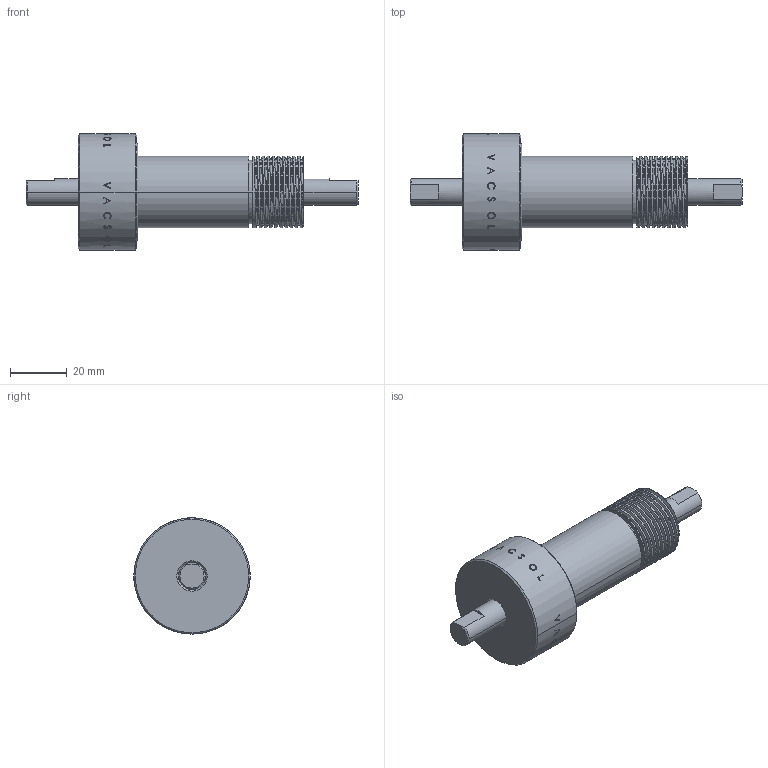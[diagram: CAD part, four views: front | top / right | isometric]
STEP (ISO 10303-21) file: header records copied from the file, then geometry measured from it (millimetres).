
FILE_DESCRIPTION (( 'STEP AP203' ), '1' );
FILE_NAME ('P62060.STEP', '2010-10-11T11:03:57', ( 'user' ), ( '' ), 'SwSTEP 2.0', 'SolidWorks 2007', '' );
FILE_SCHEMA (( 'CONFIG_CONTROL_DESIGN' ));
Length unit declared in the file: millimetre
Products named in the file (1): P62060
Bounding box: 117.47 x 41.15 x 41.15 mm (x, y, z)
Volume: 59101.4 mm3; surface area: 13693.5 mm2
Topology: 2 solids, 2 shells, 300 faces, 779 edges, 514 vertices
Faces by surface type: bspline 179, cylinder 84, plane 19, cone 14, torus 4
Entity records: 22447 total; most frequent: CARTESIAN_POINT 16804, ORIENTED_EDGE 1558, EDGE_CURVE 779, B_SPLINE_CURVE_WITH_KNOTS 541, VERTEX_POINT 514, DIRECTION 472, EDGE_LOOP 333, ADVANCED_FACE 300
